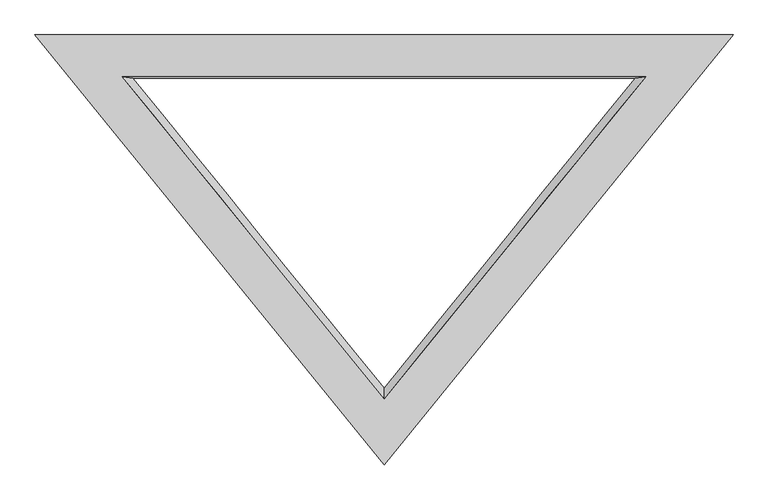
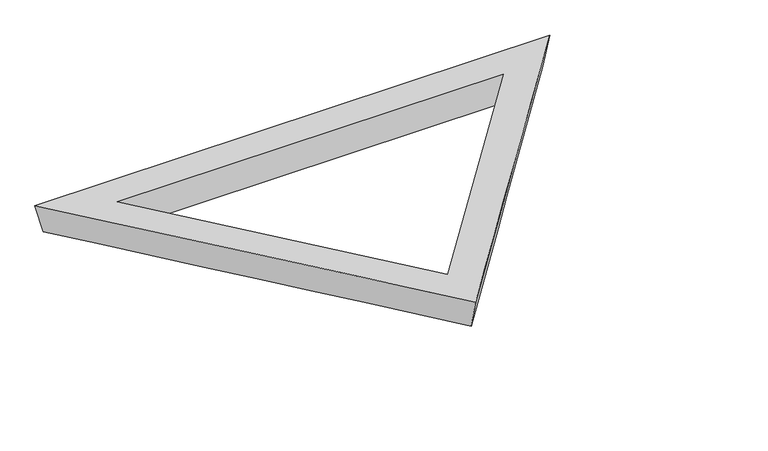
"""IFC4 building model written with IfcOpenShell, lengths in millimetres: plate geometry."""

from ifc_helpers import new_model, si_unit, frame, origin, place, context, project, spatial, source, transform, mapped, element, save
from ifc_brep_helpers import plane_surface, spline_surface, advanced_brep


def plate_aae2b0a6(model_context):
    return source(origin(), model_context, "Body", "AdvancedBrep", [
        advanced_brep(
        [(4871.6037931, 5556.9564051, 0.0), (4820.0980744, 5563.8923205, 196.2409229), (6096.0, 3992.4652319, 196.9166807), (6096.0, 4042.8468962, 0.0), (7371.9019256, 5563.8923205, 196.2409229), (7320.3962069, 5556.9564051, 0.0), (6096.0, 3719.6871899, 0.0), (7746.0409996, 5760.1564051, 0.0), (7798.6330296, 5767.0923017, 196.1535412), (6096.0, 3670.094397, 197.0553092), (4445.9590004, 5760.1564051, 0.0), (4393.3669704, 5767.0923017, 196.1535412)],
        [
            (0, 1),
            (1, 2),
            (2, 3),
            (3, 0),
            (2, 4),
            (4, 5),
            (5, 3),
            (0, 5),
            (4, 1),
            (6, 7),
            (7, 8),
            (8, 9),
            (9, 6),
            (7, 10),
            (10, 11),
            (11, 8),
            (9, 11),
            (10, 6),
        ],
        [
            spline_surface(1, 1, [[(4871.6037931, 5556.9564051, 0.0), (6096.0, 4042.8468962, 0.0)], [(4820.0980744, 5563.8923205, 196.2409229), (6096.0, 3992.4652319, 196.9166807)]], [2, 2], [2, 2], [0.0, 1.0], [0.0, 1.0]),
            spline_surface(1, 1, [[(6096.0, 4042.8468962, 0.0), (7320.3962069, 5556.9564051, 0.0)], [(6096.0, 3992.4652319, 196.9166807), (7371.9019256, 5563.8923205, 196.2409229)]], [2, 2], [2, 2], [0.0, 1.0], [0.0, 1.0]),
            plane_surface(frame((6096.0, 5556.9564051, 0.0), z_axis=(0.0, -0.9993759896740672, 0.03532182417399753), x_axis=(-1.0, 0.0, 0.0))),
            spline_surface(1, 1, [[(6096.0, 3719.6871899, 0.0), (6096.0, 3670.094397, 197.0553092)], [(7746.0409996, 5760.1564051, 0.0), (7798.6330296, 5767.0923017, 196.1535412)]], [2, 2], [2, 2], [0.0, 1.0], [0.0, 1.0]),
            plane_surface(frame((6096.0, 5760.1564051, 0.0), z_axis=(0.0, 0.9993754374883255, -0.03533744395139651), x_axis=(-1.0, 0.0, 0.0))),
            spline_surface(1, 1, [[(4445.9590004, 5760.1564051, 0.0), (4393.3669704, 5767.0923017, 196.1535412)], [(6096.0, 3719.6871899, 0.0), (6096.0, 3670.094397, 197.0553092)]], [2, 2], [2, 2], [0.0, 1.0], [0.0, 1.0]),
            plane_surface(frame((6096.0, 5068.0930001, 196.4541305), z_axis=(0.0, 0.0004300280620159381, 0.9999999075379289), x_axis=(0.6303299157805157, -0.7763273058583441, 0.0003338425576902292))),
            plane_surface(frame((6096.0, 5080.0, 0.0), z_axis=(0.0, 0.0, -1.0000000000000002), x_axis=(-0.6287912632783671, 0.7775741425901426, 0.0))),
        ],
        [
            (0, [[1, 2, 3, 4]]),
            (1, [[-3, 5, 6, 7]]),
            (2, [[-1, 8, -6, 9]]),
            (3, [[10, 11, 12, 13]]),
            (4, [[-11, 14, 15, 16]]),
            (5, [[-13, 17, -15, 18]]),
            (6, [[-12, -16, -17], [-2, -9, -5]]),
            (7, [[-10, -18, -14], [-4, -7, -8]]),
        ],
    ),
    ])


if __name__ == "__main__":
    model = new_model("IFC4")
    model_context = context("Model", 3, world=origin())
    ifc_project = project(units=[si_unit("LENGTHUNIT", "METRE", prefix="MILLI")], contexts=[model_context])
    site = spatial("IfcSite", under=ifc_project)
    building = spatial("IfcBuilding", under=site)
    placement = place(None, origin())
    plate_shape = plate_aae2b0a6(model_context)
    element("IfcPlate", 1, ObjectType="tn_cpanel_patbase_triangle_flat_seamless_frame_02_cylinder : tn_cpanel_pattern_mullion_t8\"xh8\"", at=placement, inside=building, context=model_context, shape_type="MappedRepresentation", body=[
        mapped(plate_shape, transform((0.0, 0.0, 0.0), x_axis=(1.0, 0.0, 0.0), y_axis=(0.0, 1.0, 0.0), z_axis=(0.0, 0.0, 1.0))),
    ])
    save(model, "model.ifc")
